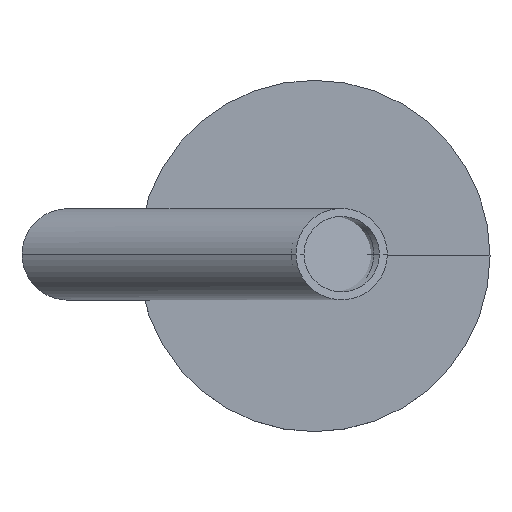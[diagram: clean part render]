
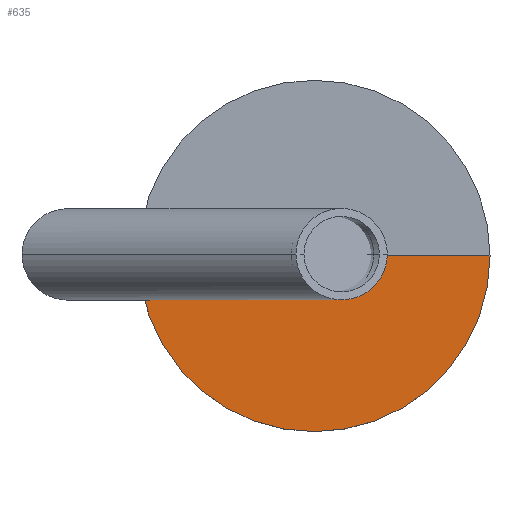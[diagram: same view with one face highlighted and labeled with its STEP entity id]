
A CAD part, top view. The second image highlights one B-rep face of the part: STEP entity #635.
In plain terms, the highlighted planar face has unit normal (0, 0, 1).
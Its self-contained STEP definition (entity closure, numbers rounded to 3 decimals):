
#89=FACE_OUTER_BOUND('',#140,.T.);
#140=EDGE_LOOP('',(#446,#447,#448,#449));
#191=LINE('',#1004,#232);
#192=LINE('',#1007,#233);
#232=VECTOR('',#802,304.8);
#233=VECTOR('',#805,304.8);
#273=CIRCLE('',#696,5.5);
#275=CIRCLE('',#700,75.);
#301=VERTEX_POINT('',#995);
#302=VERTEX_POINT('',#997);
#303=VERTEX_POINT('',#1003);
#304=VERTEX_POINT('',#1005);
#352=EDGE_CURVE('',#302,#301,#273,.T.);
#355=EDGE_CURVE('',#303,#301,#191,.T.);
#356=EDGE_CURVE('',#304,#303,#275,.T.);
#357=EDGE_CURVE('',#302,#304,#192,.T.);
#446=ORIENTED_EDGE('',*,*,#352,.T.);
#447=ORIENTED_EDGE('',*,*,#355,.F.);
#448=ORIENTED_EDGE('',*,*,#356,.F.);
#449=ORIENTED_EDGE('',*,*,#357,.F.);
#604=PLANE('',#699);
#635=ADVANCED_FACE('',(#89),#604,.T.);
#696=AXIS2_PLACEMENT_3D('',#998,#793,#794);
#699=AXIS2_PLACEMENT_3D('',#1002,#800,#801);
#700=AXIS2_PLACEMENT_3D('',#1006,#803,#804);
#793=DIRECTION('center_axis',(0.,0.,-1.));
#794=DIRECTION('ref_axis',(1.,0.,0.));
#800=DIRECTION('center_axis',(0.,0.,1.));
#801=DIRECTION('ref_axis',(1.,0.,0.));
#802=DIRECTION('',(1.,0.,0.));
#803=DIRECTION('center_axis',(0.,0.,-1.));
#804=DIRECTION('ref_axis',(1.,0.,0.));
#805=DIRECTION('',(1.,0.,0.));
#995=CARTESIAN_POINT('',(-5.5,0.,7.));
#997=CARTESIAN_POINT('',(5.5,0.,7.));
#998=CARTESIAN_POINT('Origin',(0.,0.,7.));
#1002=CARTESIAN_POINT('Origin',(0.,0.,7.));
#1003=CARTESIAN_POINT('',(-75.,0.,7.));
#1004=CARTESIAN_POINT('',(-75.,0.,7.));
#1005=CARTESIAN_POINT('',(75.,0.,7.));
#1006=CARTESIAN_POINT('Origin',(0.,0.,7.));
#1007=CARTESIAN_POINT('',(5.5,0.,7.));
